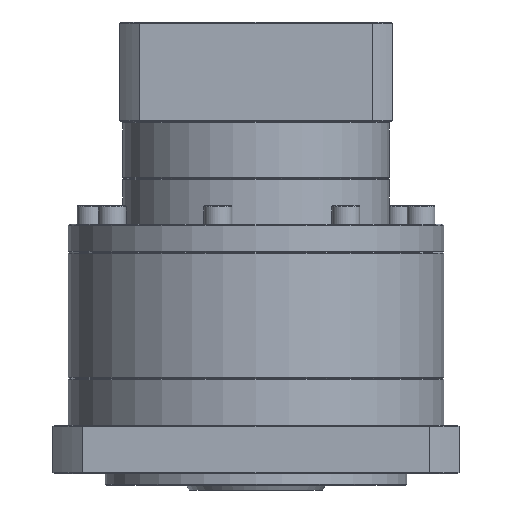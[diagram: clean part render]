
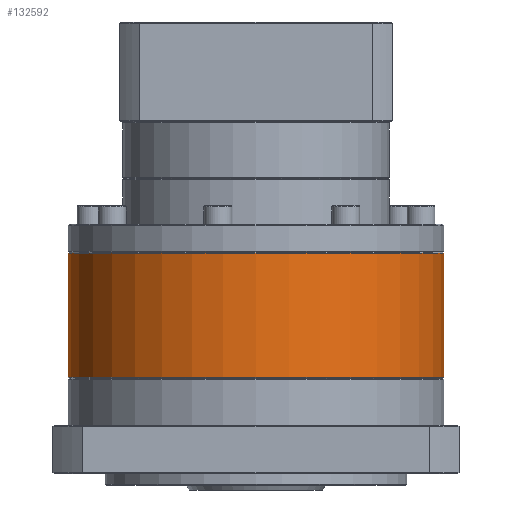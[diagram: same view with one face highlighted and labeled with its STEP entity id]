
A CAD part, front view. The second image highlights one B-rep face of the part: STEP entity #132592.
In plain terms, the highlighted cylindrical face has radius 81 mm (diameter 162 mm), a partial arc.
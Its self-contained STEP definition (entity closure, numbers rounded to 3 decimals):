
#3293 = EDGE_CURVE ( 'NONE', #44449, #127548, #17324, .T. ) ;
#13459 = CARTESIAN_POINT ( 'NONE',  ( -226.481, 104.821, -85.397 ) ) ;
#13865 = DIRECTION ( 'NONE',  ( 0., 0., -1. ) ) ;
#14371 = ORIENTED_EDGE ( 'NONE', *, *, #116686, .F. ) ;
#15588 = DIRECTION ( 'NONE',  ( 0., 0., -1. ) ) ;
#16306 = EDGE_CURVE ( 'NONE', #44449, #124636, #75119, .T. ) ;
#17324 = CIRCLE ( 'NONE', #27816, 81. ) ;
#20680 = VECTOR ( 'NONE', #26032, 1000. ) ;
#24015 = AXIS2_PLACEMENT_3D ( 'NONE', #125245, #95482, #104147 ) ;
#26032 = DIRECTION ( 'NONE',  ( 0., 0., -1. ) ) ;
#27816 = AXIS2_PLACEMENT_3D ( 'NONE', #56741, #13865, #128380 ) ;
#31802 = ORIENTED_EDGE ( 'NONE', *, *, #133098, .T. ) ;
#34296 = DIRECTION ( 'NONE',  ( -1., 0., 0. ) ) ;
#35722 = CARTESIAN_POINT ( 'NONE',  ( -226.481, 104.821, -138.897 ) ) ;
#36824 = DIRECTION ( 'NONE',  ( 0., 0., -1. ) ) ;
#40355 = LINE ( 'NONE', #108625, #20680 ) ;
#44449 = VERTEX_POINT ( 'NONE', #82737 ) ;
#46952 = CARTESIAN_POINT ( 'NONE',  ( -64.481, 104.821, -84.897 ) ) ;
#56741 = CARTESIAN_POINT ( 'NONE',  ( -145.481, 104.821, -85.397 ) ) ;
#61288 = AXIS2_PLACEMENT_3D ( 'NONE', #98993, #15588, #98532 ) ;
#61825 = CIRCLE ( 'NONE', #61288, 81. ) ;
#62771 = CARTESIAN_POINT ( 'NONE',  ( -64.481, 104.821, -138.897 ) ) ;
#64250 = AXIS2_PLACEMENT_3D ( 'NONE', #97717, #108185, #34296 ) ;
#64912 = EDGE_CURVE ( 'NONE', #74949, #124811, #40355, .T. ) ;
#74554 = CARTESIAN_POINT ( 'NONE',  ( -145.481, 23.821, -85.397 ) ) ;
#74750 = ORIENTED_EDGE ( 'NONE', *, *, #16306, .F. ) ;
#74949 = VERTEX_POINT ( 'NONE', #13459 ) ;
#75119 = LINE ( 'NONE', #46952, #99488 ) ;
#78472 = CIRCLE ( 'NONE', #64250, 81. ) ;
#82737 = CARTESIAN_POINT ( 'NONE',  ( -64.481, 104.821, -85.397 ) ) ;
#95482 = DIRECTION ( 'NONE',  ( 0., 0., -1. ) ) ;
#97717 = CARTESIAN_POINT ( 'NONE',  ( -145.481, 104.821, -85.397 ) ) ;
#98532 = DIRECTION ( 'NONE',  ( 1., 0., 0. ) ) ;
#98993 = CARTESIAN_POINT ( 'NONE',  ( -145.481, 104.821, -138.897 ) ) ;
#99488 = VECTOR ( 'NONE', #36824, 1000. ) ;
#100849 = ORIENTED_EDGE ( 'NONE', *, *, #64912, .T. ) ;
#104147 = DIRECTION ( 'NONE',  ( -1., 0., 0. ) ) ;
#108185 = DIRECTION ( 'NONE',  ( 0., 0., -1. ) ) ;
#108625 = CARTESIAN_POINT ( 'NONE',  ( -226.481, 104.821, -84.897 ) ) ;
#116686 = EDGE_CURVE ( 'NONE', #124636, #124811, #61825, .T. ) ;
#120997 = ORIENTED_EDGE ( 'NONE', *, *, #3293, .T. ) ;
#124636 = VERTEX_POINT ( 'NONE', #62771 ) ;
#124811 = VERTEX_POINT ( 'NONE', #35722 ) ;
#125245 = CARTESIAN_POINT ( 'NONE',  ( -145.481, 104.821, -84.897 ) ) ;
#127548 = VERTEX_POINT ( 'NONE', #74554 ) ;
#127579 = CYLINDRICAL_SURFACE ( 'NONE', #24015, 81. ) ;
#128380 = DIRECTION ( 'NONE',  ( -1., 0., 0. ) ) ;
#129159 = EDGE_LOOP ( 'NONE', ( #74750, #120997, #31802, #100849, #14371 ) ) ;
#132523 = FACE_OUTER_BOUND ( 'NONE', #129159, .T. ) ;
#132592 = ADVANCED_FACE ( 'NONE', ( #132523 ), #127579, .T. ) ;
#133098 = EDGE_CURVE ( 'NONE', #127548, #74949, #78472, .T. ) ;
